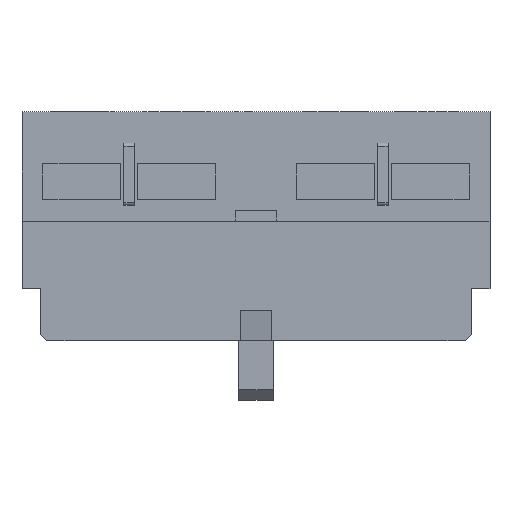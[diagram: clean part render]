
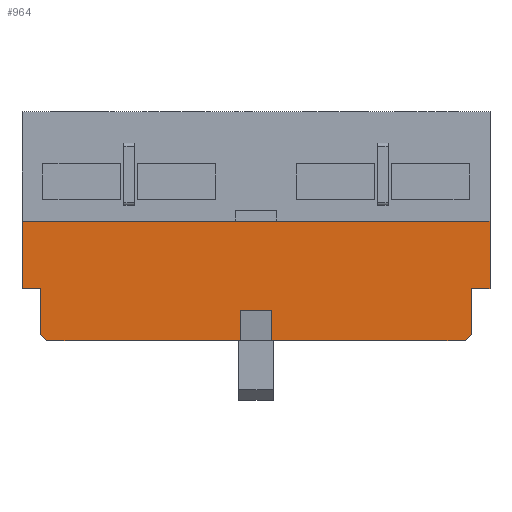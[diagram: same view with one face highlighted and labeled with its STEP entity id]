
A CAD part, top view. The second image highlights one B-rep face of the part: STEP entity #964.
In plain terms, the highlighted planar face has unit normal (0, 0, 1).
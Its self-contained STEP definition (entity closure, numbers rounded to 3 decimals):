
#3 = VECTOR ( 'NONE', #344, 1000. ) ;
#103 = VERTEX_POINT ( 'NONE', #196 ) ;
#109 = LINE ( 'NONE', #728, #1683 ) ;
#144 = DIRECTION ( 'NONE',  ( 1., 0., 0. ) ) ;
#169 = DIRECTION ( 'NONE',  ( -1., 0., 0. ) ) ;
#173 = VECTOR ( 'NONE', #169, 1000. ) ;
#185 = CARTESIAN_POINT ( 'NONE',  ( -20.7, -6., 3.4 ) ) ;
#196 = CARTESIAN_POINT ( 'NONE',  ( -1.5, -8.1, 3.4 ) ) ;
#199 = CARTESIAN_POINT ( 'NONE',  ( -22.5, 0.5, 3.4 ) ) ;
#202 = CARTESIAN_POINT ( 'NONE',  ( -22.5, -11., 3.4 ) ) ;
#203 = LINE ( 'NONE', #986, #1411 ) ;
#209 = ORIENTED_EDGE ( 'NONE', *, *, #1734, .F. ) ;
#220 = VERTEX_POINT ( 'NONE', #1991 ) ;
#292 = EDGE_CURVE ( 'NONE', #2558, #103, #1774, .T. ) ;
#321 = VECTOR ( 'NONE', #144, 1000. ) ;
#330 = VECTOR ( 'NONE', #1766, 1000. ) ;
#339 = VERTEX_POINT ( 'NONE', #1839 ) ;
#340 = EDGE_CURVE ( 'NONE', #1524, #2558, #2518, .T. ) ;
#343 = CARTESIAN_POINT ( 'NONE',  ( 15.55, -15.55, 3.4 ) ) ;
#344 = DIRECTION ( 'NONE',  ( 0., -1., 0. ) ) ;
#357 = LINE ( 'NONE', #433, #2397 ) ;
#363 = VECTOR ( 'NONE', #2039, 1000. ) ;
#418 = CARTESIAN_POINT ( 'NONE',  ( 22.5, -6., 3.4 ) ) ;
#433 = CARTESIAN_POINT ( 'NONE',  ( -22.5, -6., 3.4 ) ) ;
#453 = AXIS2_PLACEMENT_3D ( 'NONE', #2394, #1913, #675 ) ;
#468 = DIRECTION ( 'NONE',  ( 0., 1., 0. ) ) ;
#511 = LINE ( 'NONE', #2610, #321 ) ;
#514 = CARTESIAN_POINT ( 'NONE',  ( -20.7, -10.4, 3.4 ) ) ;
#535 = VERTEX_POINT ( 'NONE', #1130 ) ;
#540 = DIRECTION ( 'NONE',  ( -1., 0., 0. ) ) ;
#544 = DIRECTION ( 'NONE',  ( 0., 1., 0. ) ) ;
#563 = ORIENTED_EDGE ( 'NONE', *, *, #1791, .T. ) ;
#636 = PLANE ( 'NONE',  #453 ) ;
#675 = DIRECTION ( 'NONE',  ( 1., 0., 0. ) ) ;
#695 = VERTEX_POINT ( 'NONE', #1650 ) ;
#719 = EDGE_CURVE ( 'NONE', #947, #535, #2489, .T. ) ;
#727 = CARTESIAN_POINT ( 'NONE',  ( 22.5, -11., 3.4 ) ) ;
#728 = CARTESIAN_POINT ( 'NONE',  ( 20.7, -6., 3.4 ) ) ;
#819 = VERTEX_POINT ( 'NONE', #514 ) ;
#881 = EDGE_CURVE ( 'NONE', #2184, #695, #357, .T. ) ;
#947 = VERTEX_POINT ( 'NONE', #2522 ) ;
#962 = VECTOR ( 'NONE', #1530, 1000. ) ;
#964 = ADVANCED_FACE ( 'NONE', ( #1186 ), #636, .T. ) ;
#970 = EDGE_CURVE ( 'NONE', #1878, #339, #109, .T. ) ;
#986 = CARTESIAN_POINT ( 'NONE',  ( -22.5, 0.5, 3.4 ) ) ;
#1022 = CARTESIAN_POINT ( 'NONE',  ( -20.7, -11., 3.4 ) ) ;
#1044 = VERTEX_POINT ( 'NONE', #199 ) ;
#1047 = CARTESIAN_POINT ( 'NONE',  ( -22.5, -11., 3.4 ) ) ;
#1109 = ORIENTED_EDGE ( 'NONE', *, *, #970, .F. ) ;
#1120 = CARTESIAN_POINT ( 'NONE',  ( 1.5, -11., 3.4 ) ) ;
#1130 = CARTESIAN_POINT ( 'NONE',  ( 20.7, -10.4, 3.4 ) ) ;
#1153 = EDGE_CURVE ( 'NONE', #220, #947, #1713, .T. ) ;
#1159 = VECTOR ( 'NONE', #1752, 1000. ) ;
#1169 = VERTEX_POINT ( 'NONE', #1979 ) ;
#1186 = FACE_OUTER_BOUND ( 'NONE', #1384, .T. ) ;
#1232 = EDGE_CURVE ( 'NONE', #819, #1524, #2515, .T. ) ;
#1246 = LINE ( 'NONE', #1120, #962 ) ;
#1254 = ORIENTED_EDGE ( 'NONE', *, *, #719, .T. ) ;
#1294 = EDGE_CURVE ( 'NONE', #2101, #1044, #1801, .T. ) ;
#1314 = DIRECTION ( 'NONE',  ( 0., 1., 0. ) ) ;
#1358 = ORIENTED_EDGE ( 'NONE', *, *, #1153, .T. ) ;
#1374 = CARTESIAN_POINT ( 'NONE',  ( 22.5, 0.5, 3.4 ) ) ;
#1384 = EDGE_LOOP ( 'NONE', ( #1967, #2490, #209, #1358, #1254, #1623, #1109, #563, #2365, #1847, #2584, #1551, #1939, #1661 ) ) ;
#1411 = VECTOR ( 'NONE', #2605, 1000. ) ;
#1524 = VERTEX_POINT ( 'NONE', #2102 ) ;
#1530 = DIRECTION ( 'NONE',  ( 0., 1., 0. ) ) ;
#1551 = ORIENTED_EDGE ( 'NONE', *, *, #2235, .F. ) ;
#1623 = ORIENTED_EDGE ( 'NONE', *, *, #1852, .F. ) ;
#1650 = CARTESIAN_POINT ( 'NONE',  ( -22.5, -6., 3.4 ) ) ;
#1661 = ORIENTED_EDGE ( 'NONE', *, *, #340, .T. ) ;
#1671 = DIRECTION ( 'NONE',  ( 0.707, -0.707, 0. ) ) ;
#1674 = VECTOR ( 'NONE', #544, 1000. ) ;
#1683 = VECTOR ( 'NONE', #540, 1000. ) ;
#1712 = CARTESIAN_POINT ( 'NONE',  ( -1.5, -11., 3.4 ) ) ;
#1713 = LINE ( 'NONE', #1047, #1159 ) ;
#1734 = EDGE_CURVE ( 'NONE', #220, #1169, #1246, .T. ) ;
#1752 = DIRECTION ( 'NONE',  ( 1., 0., 0. ) ) ;
#1766 = DIRECTION ( 'NONE',  ( 0.707, 0.707, 0. ) ) ;
#1774 = LINE ( 'NONE', #1712, #1803 ) ;
#1791 = EDGE_CURVE ( 'NONE', #1878, #2101, #2544, .T. ) ;
#1800 = CARTESIAN_POINT ( 'NONE',  ( -1.5, -11., 3.4 ) ) ;
#1801 = LINE ( 'NONE', #1374, #173 ) ;
#1803 = VECTOR ( 'NONE', #1314, 1000. ) ;
#1834 = LINE ( 'NONE', #1022, #2197 ) ;
#1839 = CARTESIAN_POINT ( 'NONE',  ( 20.7, -6., 3.4 ) ) ;
#1847 = ORIENTED_EDGE ( 'NONE', *, *, #2167, .T. ) ;
#1852 = EDGE_CURVE ( 'NONE', #339, #535, #2196, .T. ) ;
#1878 = VERTEX_POINT ( 'NONE', #418 ) ;
#1913 = DIRECTION ( 'NONE',  ( 0., 0., 1. ) ) ;
#1939 = ORIENTED_EDGE ( 'NONE', *, *, #1232, .T. ) ;
#1967 = ORIENTED_EDGE ( 'NONE', *, *, #292, .T. ) ;
#1979 = CARTESIAN_POINT ( 'NONE',  ( 1.5, -8.1, 3.4 ) ) ;
#1991 = CARTESIAN_POINT ( 'NONE',  ( 1.5, -11., 3.4 ) ) ;
#1994 = VECTOR ( 'NONE', #1671, 1000. ) ;
#2039 = DIRECTION ( 'NONE',  ( 1., 0., 0. ) ) ;
#2101 = VERTEX_POINT ( 'NONE', #2640 ) ;
#2102 = CARTESIAN_POINT ( 'NONE',  ( -20.1, -11., 3.4 ) ) ;
#2111 = DIRECTION ( 'NONE',  ( -1., 0., 0. ) ) ;
#2167 = EDGE_CURVE ( 'NONE', #1044, #695, #203, .T. ) ;
#2184 = VERTEX_POINT ( 'NONE', #185 ) ;
#2196 = LINE ( 'NONE', #2308, #3 ) ;
#2197 = VECTOR ( 'NONE', #468, 1000. ) ;
#2235 = EDGE_CURVE ( 'NONE', #819, #2184, #1834, .T. ) ;
#2308 = CARTESIAN_POINT ( 'NONE',  ( 20.7, -11., 3.4 ) ) ;
#2365 = ORIENTED_EDGE ( 'NONE', *, *, #1294, .T. ) ;
#2394 = CARTESIAN_POINT ( 'NONE',  ( 0., 0., 3.4 ) ) ;
#2397 = VECTOR ( 'NONE', #2111, 1000. ) ;
#2489 = LINE ( 'NONE', #343, #330 ) ;
#2490 = ORIENTED_EDGE ( 'NONE', *, *, #2577, .T. ) ;
#2515 = LINE ( 'NONE', #2553, #1994 ) ;
#2518 = LINE ( 'NONE', #202, #363 ) ;
#2522 = CARTESIAN_POINT ( 'NONE',  ( 20.1, -11., 3.4 ) ) ;
#2544 = LINE ( 'NONE', #727, #1674 ) ;
#2553 = CARTESIAN_POINT ( 'NONE',  ( -15.55, -15.55, 3.4 ) ) ;
#2558 = VERTEX_POINT ( 'NONE', #1800 ) ;
#2577 = EDGE_CURVE ( 'NONE', #103, #1169, #511, .T. ) ;
#2584 = ORIENTED_EDGE ( 'NONE', *, *, #881, .F. ) ;
#2605 = DIRECTION ( 'NONE',  ( 0., -1., 0. ) ) ;
#2610 = CARTESIAN_POINT ( 'NONE',  ( -1.5, -8.1, 3.4 ) ) ;
#2640 = CARTESIAN_POINT ( 'NONE',  ( 22.5, 0.5, 3.4 ) ) ;
